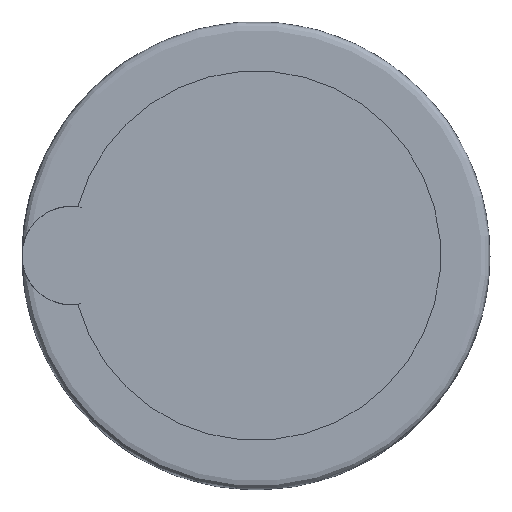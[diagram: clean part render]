
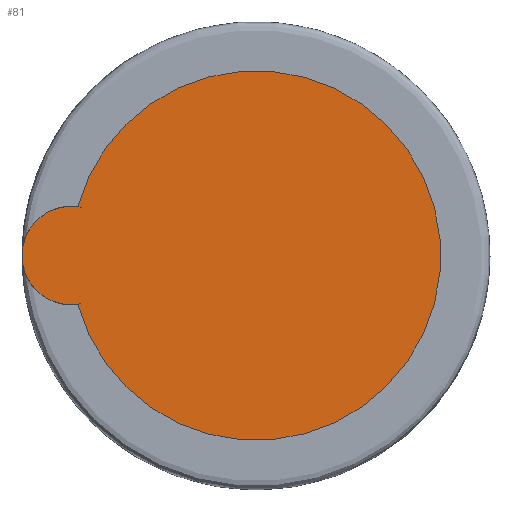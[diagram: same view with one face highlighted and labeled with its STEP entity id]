
A CAD part, top view. The second image highlights one B-rep face of the part: STEP entity #81.
In plain terms, the highlighted planar face has unit normal (0, 0, 1).
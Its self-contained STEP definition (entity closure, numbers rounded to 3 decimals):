
#81=ADVANCED_FACE('',(#167),#168,.F.);
#167=FACE_OUTER_BOUND('',#247,.T.);
#168=PLANE('',#248);
#247=EDGE_LOOP('',(#387,#388));
#248=AXIS2_PLACEMENT_3D('',#389,#390,#391);
#387=ORIENTED_EDGE('',*,*,#433,.F.);
#388=ORIENTED_EDGE('',*,*,#417,.F.);
#389=CARTESIAN_POINT('',(0.0,0.0,35.));
#390=DIRECTION('',(-0.0,0.,-1.0));
#391=DIRECTION('',(0.0,1.0,0.));
#417=EDGE_CURVE('',#471,#474,#475,.T.);
#433=EDGE_CURVE('',#474,#471,#498,.T.);
#471=VERTEX_POINT('',#536);
#474=VERTEX_POINT('',#542);
#475=CIRCLE('',#543,6.0);
#498=CIRCLE('',#644,22.5);
#536=CARTESIAN_POINT('',(-21.7,-5.946,35.));
#542=CARTESIAN_POINT('',(-21.7,5.946,35.));
#543=AXIS2_PLACEMENT_3D('',#680,#681,#682);
#644=AXIS2_PLACEMENT_3D('',#697,#698,#699);
#680=CARTESIAN_POINT('',(-22.5,0.0,35.));
#681=DIRECTION('',(0.0,0.0,-1.0));
#682=DIRECTION('',(1.0,0.0,0.0));
#697=CARTESIAN_POINT('',(0.0,0.0,35.));
#698=DIRECTION('',(-0.0,0.,-1.0));
#699=DIRECTION('',(0.0,1.0,0.));
